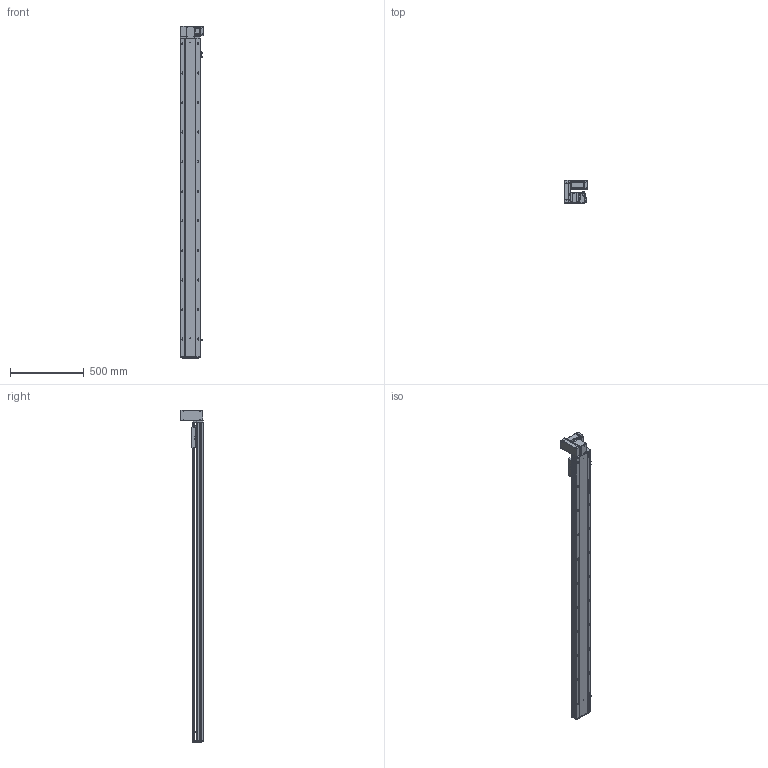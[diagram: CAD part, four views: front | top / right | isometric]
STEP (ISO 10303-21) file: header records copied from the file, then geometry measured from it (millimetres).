
FILE_DESCRIPTION (( 'STEP AP203' ), '1' );
FILE_NAME ('RY140-T-300-UL.SLDASM_1900.step', '2021-03-01T07:45:08', ( '盈信电脑' ), ( '东莞市道滘镇水果街19号' ), 'SwSTEP 2.0', 'SolidWorks 2012', '' );
FILE_SCHEMA (( 'CONFIG_CONTROL_DESIGN' ));
Length unit declared in the file: millimetre
Products named in the file (18): RY140-T-300-UL.SLDASM_1900; 滅袉蝶18-10; RY140-T翋肮謫裔啣; 侂狟400W侜督萇儂; RY120-T主同步轮轴承压盖; RY140-T萇儂欶; RY120-T蹟翐M4; RY140-T翋肮祭謫盓傅釱; RY140-T萇儂假蚾啣; 15; RY120-T肮祭湍揤踡輸1; RY120外置感应片(140共用）; RY120-T肮祭湍揤踡輸2; 覜茼ん672; RY140肮祭謫臏賑輸; RY140-T-300-DL倰第菁釱_1900; RY140綴裔啣; RY140-T-300-DL倰第奻裔啣_1900
Assembly tree (23 placements, depth 3):
  RY140-T-300-UL.SLDASM_1900
    RY140-T-300-DL倰第菁釱_1900
    RY140肮祭謫臏賑輸
    RY140-T-300-DL倰第奻裔啣_1900
    RY140綴裔啣
    覜茼ん672  x3
    RY120外置感应片(140共用）
    RY120-T肮祭湍揤踡輸2
    RY120-T肮祭湍揤踡輸1
    RY140-T翋肮祭謫盓傅釱
    RY140-T萇儂假蚾啣
    侂狟400W侜督萇儂
      15
    RY120-T主同步轮轴承压盖
    RY120-T蹟翐M4  x4
    RY140-T萇儂欶
    滅袉蝶18-10  x2
    RY140-T翋肮謫裔啣
Bounding box: 157 x 152.5 x 2246 mm (x, y, z)
Volume: 6149766.1 mm3; surface area: 2403167 mm2
Topology: 22 solids, 22 shells, 2855 faces, 7837 edges, 4988 vertices
Faces by surface type: plane 1381, cylinder 1092, cone 282, bspline 100
Entity records: 90255 total; most frequent: CARTESIAN_POINT 21901, ORIENTED_EDGE 14034, DIRECTION 13425, EDGE_CURVE 7017, VERTEX_POINT 4587, AXIS2_PLACEMENT_3D 4512, LINE 4401, VECTOR 4401
